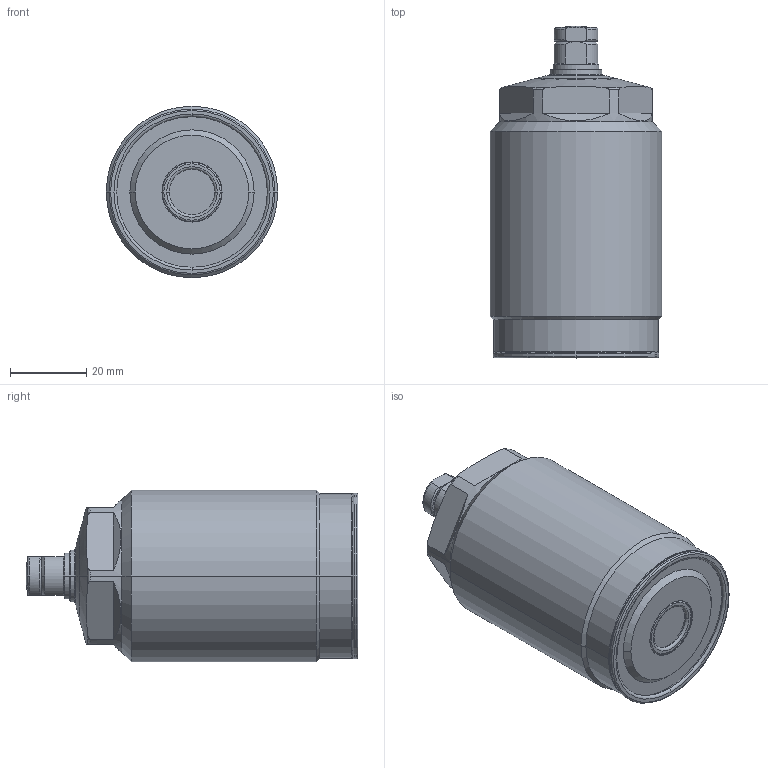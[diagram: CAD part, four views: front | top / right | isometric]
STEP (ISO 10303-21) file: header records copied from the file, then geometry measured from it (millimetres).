
FILE_DESCRIPTION(/* description */ (''),/* implementation_level */ '2;1');
FILE_NAME(/* name */ 'TNL45.stp',/* time_stamp */ '2022-11-17T13:24:15+08:00',/* author */ (''),/* organization */ (''),/* preprocessor_version */ 'ST-DEVELOPER v16.7',/* originating_system */ 'SIEMENS PLM Software NX 12.0',/* authorisation */ '');
FILE_SCHEMA (('AP203_CONFIGURATION_CONTROLLED_3D_DESIGN_OF_MECHANICAL_PARTS_AND_ASSEMBLIES_MIM_LF { 1 0 10303 403 2 1 2}'));
Length unit declared in the file: millimetre
Products named in the file (7): XLD-M8_contactbolt; XLD-M8_Oring; TNL45-01; TNL45-04; TNL45-02; TNL45-03; WNC3003-x_step
Assembly tree (6 placements, depth 3):
  WNC3003-x_step
    TNL45-02
    TNL45-04
    TNL45-03
      XLD-M8_Oring
      XLD-M8_contactbolt
    TNL45-01
Bounding box: 45 x 87 x 45 mm (x, y, z)
Volume: 109043.8 mm3; surface area: 15484.7 mm2
Topology: 5 solids, 5 shells, 158 faces, 348 edges, 210 vertices
Faces by surface type: torus 53, cylinder 42, plane 37, cone 24, sphere 2
Entity records: 5492 total; most frequent: CARTESIAN_POINT 1111, DIRECTION 858, ORIENTED_EDGE 696, AXIS2_PLACEMENT_3D 383, EDGE_CURVE 348, CIRCLE 218, VERTEX_POINT 210, EDGE_LOOP 174
